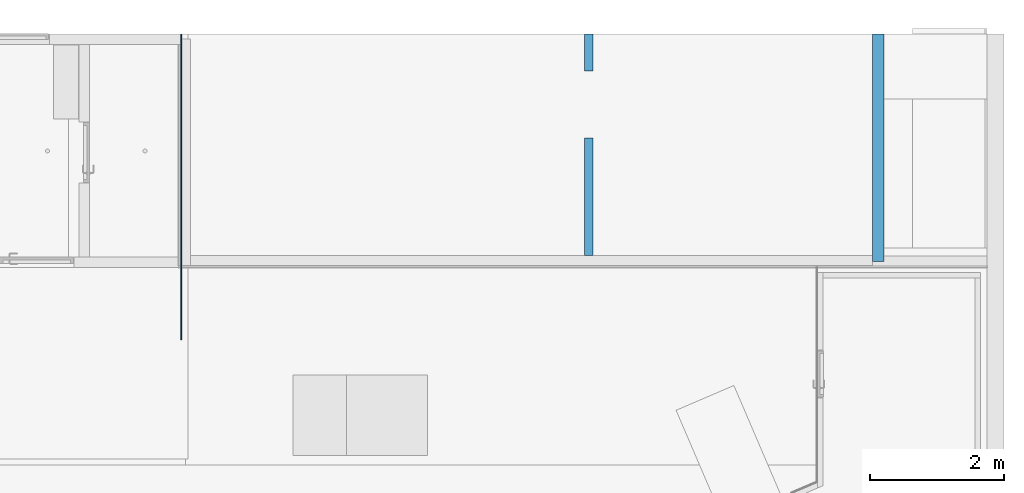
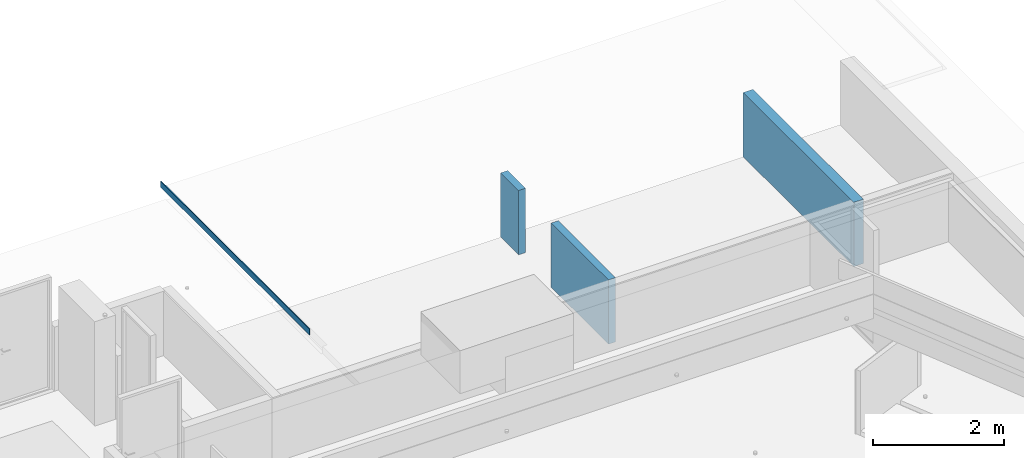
# One storey, part 9 of 16: 3 walls.
"""IFC2X3 building model written with IfcOpenShell, lengths in millimetres."""

import ifcopenshell
import ifcopenshell.guid

model = None  # the IFC model being written
_history = None  # IfcOwnerHistory: only IFC2X3 demands one
_inside = {}  # id of a spatial element -> (the spatial element, [elements in it])
_under = {}  # id of a project, library or spatial element -> (it, [spatial elements below it])
_declared = {}  # id of a project -> (the project, [libraries it declares])
_typed = {}  # id of a type object -> (the type object, [elements of that type])
_made_of = {}  # id of a material, layer set ... -> (it, [elements and type objects made of it])


def new_model(schema):
    """Start an empty IFC model of exactly this schema.

    Asked for "IFC4X3", IfcOpenShell would pick the latest addendum, in which some entities
    have other attributes; the version numbers below select the first issue.
    IFC2X3 requires an IfcOwnerHistory on every rooted entity: one is made here for all.
    """
    global model, _history
    if schema == "IFC4X3":
        model = ifcopenshell.file(schema_version=(4, 3, 0, 0))
    else:
        model = ifcopenshell.file(schema=schema)
    _inside.clear()
    _under.clear()
    _declared.clear()
    _typed.clear()
    _made_of.clear()
    _history = None
    if model.schema == "IFC2X3":
        org = make("IfcOrganization", Name="unknown")
        user = make(
            "IfcPersonAndOrganization",
            ThePerson=make("IfcPerson", FamilyName="unknown"),
            TheOrganization=org,
        )
        app = make(
            "IfcApplication",
            ApplicationDeveloper=org,
            Version="unknown",
            ApplicationFullName="unknown",
            ApplicationIdentifier="unknown",
        )
        _history = make(
            "IfcOwnerHistory",
            OwningUser=user,
            OwningApplication=app,
            ChangeAction="ADDED",
            CreationDate=0,
        )
    return model


def make(cls, **values):
    """One entity of the class cls with the attributes given. An attribute that is None is left unset."""
    return model.create_entity(
        cls, **{name: value for name, value in values.items() if value is not None}
    )


def entity(cls, *values):
    """Any entity or typed value of the class cls, its attributes in the order of the schema. None: left unset."""
    e = model.create_entity(cls)
    for i, value in enumerate(values):
        if value is not None:
            e[i] = value
    return e


def rooted(cls, **values):
    """An entity with a GlobalId (a new one), such as an element, a storey or a relation."""
    return make(cls, GlobalId=ifcopenshell.guid.new(), OwnerHistory=_history, **values)


def si_unit(unit_type, name, prefix=None):
    """IfcSIUnit, for example si_unit("LENGTHUNIT", "METRE", prefix="MILLI")."""
    return make("IfcSIUnit", UnitType=unit_type, Prefix=prefix, Name=name)


def converted_unit(unit_type, name, factor, base, dimensions=None, offset=None):
    """IfcConversionBasedUnit, such as the inch: factor (a typed value) times the base unit."""
    return make(
        "IfcConversionBasedUnit"
        if offset is None
        else "IfcConversionBasedUnitWithOffset",
        ConversionOffset=offset,
        Dimensions=None
        if dimensions is None
        else entity("IfcDimensionalExponents", *dimensions),
        UnitType=unit_type,
        Name=name,
        ConversionFactor=make(
            "IfcMeasureWithUnit", ValueComponent=factor, UnitComponent=base
        ),
    )


def derived_unit(unit_type, elements):
    """IfcDerivedUnit: a product of units, each with its exponent."""
    return make(
        "IfcDerivedUnit",
        Elements=[
            make("IfcDerivedUnitElement", Unit=unit, Exponent=power)
            for unit, power in elements
        ],
        UnitType=unit_type,
    )


def assignment(units):
    """IfcUnitAssignment: the units of a project."""
    return None if units is None else make("IfcUnitAssignment", Units=units)


def point(xyz):
    """IfcCartesianPoint."""
    return None if xyz is None else make("IfcCartesianPoint", Coordinates=xyz)


def direction(xyz):
    """IfcDirection."""
    return None if xyz is None else make("IfcDirection", DirectionRatios=xyz)


def frame(location, z_axis=None, x_axis=None):
    """IfcAxis2Placement3D, a coordinate frame: its origin and axes. An axis left out is left unset."""
    return make(
        "IfcAxis2Placement3D",
        Location=point(location),
        Axis=direction(z_axis),
        RefDirection=direction(x_axis),
    )


def origin_with_axes():
    """The frame at (0, 0, 0) with the z axis (0, 0, 1) and the x axis (1, 0, 0) written out."""
    return frame((0.0, 0.0, 0.0), z_axis=(0.0, 0.0, 1.0), x_axis=(1.0, 0.0, 0.0))


def place(relative_to, where):
    """IfcLocalPlacement: puts the frame where relative to a parent placement (None: the world)."""
    return make(
        "IfcLocalPlacement", PlacementRelTo=relative_to, RelativePlacement=where
    )


def context(
    kind, dimensions, precision=None, world=None, true_north=None, identifier=None
):
    """IfcGeometricRepresentationContext, for example the 3D "Model" context."""
    return make(
        "IfcGeometricRepresentationContext",
        ContextIdentifier=identifier,
        ContextType=kind,
        CoordinateSpaceDimension=dimensions,
        Precision=precision,
        WorldCoordinateSystem=world,
        TrueNorth=true_north,
    )


def subcontext(parent, identifier, kind, view, scale=None):
    """IfcGeometricRepresentationSubContext, for example "Body" below "Model"."""
    return make(
        "IfcGeometricRepresentationSubContext",
        ContextIdentifier=identifier,
        ContextType=kind,
        ParentContext=parent,
        TargetScale=scale,
        TargetView=view,
    )


def project(units=None, contexts=None):
    """IfcProject with its units and contexts."""
    return rooted(
        "IfcProject",
        Name="project",
        RepresentationContexts=contexts,
        UnitsInContext=assignment(units),
    )


def spatial(cls, under=None, at=None, **own):
    """A site, building, storey or space (cls), placed at a placement, below another one or the project."""
    s = rooted(cls, ObjectPlacement=at, **own)
    if under is not None:
        _under.setdefault(under.id(), (under, []))[1].append(s)
    return s


def faces_of(points, faces, orient=None, outer=None):
    """IfcFace entities. A face is a list of loops; a loop is a list of indices into points, from 0.

    orient and outer hold one flag for each loop. By default every Orientation is true, the
    first loop of a face is its IfcFaceOuterBound and the others are IfcFaceBound.
    """
    made = []
    for i, loops in enumerate(faces):
        bounds = []
        for j, loop in enumerate(loops):
            is_outer = j == 0 if outer is None else outer[i][j]
            bounds.append(
                make(
                    "IfcFaceOuterBound" if is_outer else "IfcFaceBound",
                    Bound=make("IfcPolyLoop", Polygon=[points[k] for k in loop]),
                    Orientation=True if orient is None else orient[i][j],
                )
            )
        made.append(make("IfcFace", Bounds=bounds))
    return made


def faceted_brep(points, faces, orient=None, outer=None, voids=None):
    """IfcFacetedBrep: a solid bounded by flat faces; with voids (closed shells), ...WithVoids."""
    shared = [point(p) for p in points]
    hull = make("IfcClosedShell", CfsFaces=faces_of(shared, faces, orient, outer))
    if voids is None:
        return make("IfcFacetedBrep", Outer=hull)
    return make(
        "IfcFacetedBrepWithVoids",
        Outer=hull,
        Voids=[
            make(cls, CfsFaces=faces_of(shared, fs, o, b)) for cls, fs, o, b in voids
        ],
    )


def shape(context_of_items, identifier, shape_type, items):
    """IfcShapeRepresentation: the items that make up one representation, for example the "Body"."""
    return make(
        "IfcShapeRepresentation",
        ContextOfItems=context_of_items,
        RepresentationIdentifier=identifier,
        RepresentationType=shape_type,
        Items=items,
    )


def material(Name=None, Category=None):
    """IfcMaterial."""
    return make("IfcMaterial", Name=Name, Category=Category)


def layer(
    of_material, thickness, ventilated=None, Name=None, Category=None, Priority=None
):
    """IfcMaterialLayer: one layer of a wall or slab, of a material (None: an air gap)."""
    return make(
        "IfcMaterialLayer",
        Material=of_material,
        LayerThickness=thickness,
        IsVentilated=ventilated,
        Name=Name,
        Category=Category,
        Priority=Priority,
    )


def layer_set(layers, Name=None):
    """IfcMaterialLayerSet."""
    return make("IfcMaterialLayerSet", MaterialLayers=layers, LayerSetName=Name)


def made_of(thing, what):
    """Note that an element or type object is made of a material, layer set ...; save() writes the relation."""
    if what is not None:
        _made_of.setdefault(what.id(), (what, []))[1].append(thing)
    return thing


def type_object(cls, material=None, **own):
    """A type object (cls), such as IfcWallType, which elements share."""
    return made_of(rooted(cls, **own), material)


def element(
    cls,
    number,
    at=None,
    inside=None,
    cuts=None,
    type_object=None,
    material=None,
    context=None,
    identifier="Body",
    shape_type=None,
    held_by="IfcProductDefinitionShape",
    body=None,
    shapes=None,
    **own,
):
    """One element of the class cls, such as IfcWall. Its Tag is "e" and its number.

    at: its placement. inside: the storey or other place that contains it. cuts: it is an
    opening in that element (IfcRelVoidsElement). A single representation is given by context,
    identifier, shape_type and body (its items); several are given by shapes. held_by: the class
    of the entity that holds the representations. save() writes the other relations.
    """
    e = rooted(cls, Tag="e%d" % number, ObjectPlacement=at, **own)
    if body is not None:
        shapes = [shape(context, identifier, shape_type, body)]
    if shapes is not None:
        e.Representation = make(held_by, Representations=shapes)
    if inside is not None:
        _inside.setdefault(inside.id(), (inside, []))[1].append(e)
    if cuts is not None:
        rooted(
            "IfcRelVoidsElement", RelatingBuildingElement=cuts, RelatedOpeningElement=e
        )
    if type_object is not None:
        _typed.setdefault(type_object.id(), (type_object, []))[1].append(e)
    return made_of(e, material)


def aggregate(whole, parts):
    """IfcRelAggregates: a whole, such as a stair, and the parts it consists of."""
    return rooted("IfcRelAggregates", RelatingObject=whole, RelatedObjects=parts)


def save(model, path):
    """Write the relations noted so far, then the file.

    IfcRelAggregates (storeys below a building ...), IfcRelContainedInSpatialStructure (elements
    in a storey), IfcRelDefinesByType, IfcRelAssociatesMaterial and IfcRelDeclares: one each for
    every whole, place, type object, material and project.
    """
    for whole, parts in _under.values():
        aggregate(whole, parts)
    for where, things in _inside.values():
        rooted(
            "IfcRelContainedInSpatialStructure",
            RelatedElements=things,
            RelatingStructure=where,
        )
    for kind, things in _typed.values():
        rooted("IfcRelDefinesByType", RelatedObjects=things, RelatingType=kind)
    for what, things in _made_of.values():
        rooted("IfcRelAssociatesMaterial", RelatedObjects=things, RelatingMaterial=what)
    for by, libraries in _declared.values():
        rooted("IfcRelDeclares", RelatingContext=by, RelatedDefinitions=libraries)
    model.write(path)


model = new_model("IFC2X3")

# Units and contexts
model_context = context("Model", 3, precision=0.01, world=frame((0.0, 4.29681676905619e-09, 0.0)), true_north=direction((4.01073788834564e-13, 1.0)))
plan_context = context("Plan", 3, precision=0.01, world=frame((0.0, 4.29681676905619e-09, 0.0)), true_north=direction((4.01073788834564e-13, 1.0)))
body_context = subcontext(model_context, "Body", "Model", "MODEL_VIEW")
ifc_project = project(units=[converted_unit("PLANEANGLEUNIT", "DEGREE", entity("IfcPositiveLengthMeasure", 0.0174532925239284), si_unit("PLANEANGLEUNIT", "RADIAN"), dimensions=[0, 0, 0, 0, 0, 0, 0]), si_unit("AREAUNIT", "SQUARE_METRE"), si_unit("LENGTHUNIT", "METRE", prefix="MILLI"), si_unit("MASSUNIT", "GRAM", prefix="KILO"), si_unit("POWERUNIT", "WATT"), si_unit("PRESSUREUNIT", "PASCAL"), si_unit("FORCEUNIT", "NEWTON", prefix="KILO"), si_unit("ELECTRICCURRENTUNIT", "AMPERE"), si_unit("THERMODYNAMICTEMPERATUREUNIT", "DEGREE_CELSIUS"), si_unit("TIMEUNIT", "SECOND"), si_unit("VOLUMEUNIT", "CUBIC_METRE"), derived_unit("LINEARVELOCITYUNIT", [(si_unit("LENGTHUNIT", "METRE"), 1), (si_unit("TIMEUNIT", "SECOND"), -1)]), derived_unit("VOLUMETRICFLOWRATEUNIT", [(si_unit("VOLUMEUNIT", "CUBIC_METRE"), 1), (si_unit("TIMEUNIT", "SECOND"), -1)]), derived_unit("THERMALTRANSMITTANCEUNIT", [(si_unit("POWERUNIT", "WATT"), 1), (si_unit("THERMODYNAMICTEMPERATUREUNIT", "KELVIN"), -1), (si_unit("AREAUNIT", "SQUARE_METRE"), -1)])], contexts=[model_context, plan_context])

# Site, building, storey
site_placement = place(None, origin_with_axes())
site = spatial("IfcSite", under=ifc_project, at=site_placement, Name="ENGM", CompositionType="ELEMENT")
building_placement = place(site_placement, origin_with_axes())
building = spatial("IfcBuilding", under=site, at=building_placement, Name="TS", CompositionType="ELEMENT")
storey_placement = place(building_placement, frame((0.0, 0.0, 204000.0), z_axis=(0.0, 0.0, 1.0), x_axis=(1.0, 0.0, 0.0)))
storey = spatial("IfcBuildingStorey", under=building, at=storey_placement, Name="Nivå D", CompositionType="ELEMENT", Elevation=204000.0)

# Walls
ifc_material_1 = material(Name="T2_Gips Fibergips")
ifc_layer_1 = layer(ifc_material_1, 12.5)
ifc_material_2 = material(Name="Plate - Gips")
ifc_layer_2 = layer(ifc_material_2, 12.5)
ifc_material_3 = material(Name="_NSW Stålstender, uisolert")
ifc_layer_3 = layer(ifc_material_3, 120.0)
ifc_layer_4 = layer(ifc_material_2, 12.5)
ifc_layer_5 = layer(ifc_material_2, 12.5)
ifc_layer_set_1 = layer_set([ifc_layer_1, ifc_layer_2, ifc_layer_3, ifc_layer_4, ifc_layer_5], Name="Basic Wall:A241 - RVS-121")
wall_type_1 = type_object("IfcWallType", Name="Basic Wall:A241 - RVS-121", PredefinedType="STANDARD", material=ifc_layer_set_1)
wall_1_placement = place(storey_placement, frame((530302.51249987, 422074.999999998, 0.0), z_axis=(0.0, 0.0, 1.0), x_axis=(0.0, -1.0, 0.0)))
element("IfcWall", 1, at=wall_1_placement, inside=storey, type_object=wall_type_1, Name="Basic Wall:A241 - RVS-121", ObjectType="Basic Wall:A241 - RVS-121", context=body_context, shape_type="Brep", body=[
    faceted_brep([(4584.9999998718, -84.999999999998, 0.0), (4584.9999998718, -84.999999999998, 1200.0), (4584.9999998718, 84.999999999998, 1200.0), (4584.9999998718, 84.999999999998, 0.0), (1204.80854658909, 84.999999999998, 1200.0), (1204.80854658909, 84.999999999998, 0.0), (1204.80854658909, -84.999999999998, 0.0), (1204.80854658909, -84.999999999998, 1200.0)], [[[0, 1, 2, 3]], [[4, 5, 3, 2]], [[6, 7, 1, 0]], [[5, 6, 0, 3]], [[7, 4, 2, 1]], [[7, 6, 5, 4]]], orient=[[False], [False], [False], [False], [False], [False]]),
])
ifc_material_4 = material(Name="T2_Gips Protect F")
ifc_layer_6 = layer(ifc_material_4, 15.0)
ifc_layer_set_2 = layer_set([ifc_layer_6], Name="Basic Wall:A241 - F (p-0)")
wall_type_2 = type_object("IfcWallType", Name="Basic Wall:A241 - F (p-0)", PredefinedType="STANDARD", material=ifc_layer_set_2)
wall_2_placement = place(storey_placement, frame((519942.500000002, 422224.999999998, 3033.34305701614), z_axis=(0.0, 0.0, 1.0), x_axis=(0.0, -1.0, 0.0)))
element("IfcWall", 2, at=wall_2_placement, inside=storey, type_object=wall_type_2, Name="Basic Wall:A241 - F (p-0)", ObjectType="Basic Wall:A241 - F (p-0)", context=body_context, shape_type="Brep", body=[
    faceted_brep([(5902.52851562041, -7.49999999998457, 0.0), (5902.52851562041, -7.49999999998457, 111.713771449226), (5902.52851562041, 7.49999999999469, 111.713771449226), (5902.52851562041, 7.49999999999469, 0.0), (1354.80854658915, 7.49999999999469, 111.713771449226), (1354.80854658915, 7.49999999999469, 0.0), (1354.80854658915, -7.49999999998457, 0.0), (1354.80854658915, -7.49999999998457, 111.713771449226)], [[[0, 1, 2, 3]], [[4, 5, 3, 2]], [[6, 7, 1, 0]], [[5, 6, 0, 3]], [[7, 4, 2, 1]], [[7, 6, 5, 4]]], orient=[[False], [False], [False], [False], [False], [False]]),
])
ifc_layer_7 = layer(ifc_material_2, 12.5)
ifc_layer_8 = layer(ifc_material_2, 12.5)
ifc_layer_9 = layer(ifc_material_3, 75.0)
ifc_layer_10 = layer(ifc_material_2, 12.5)
ifc_layer_11 = layer(ifc_material_2, 12.5)
ifc_layer_set_3 = layer_set([ifc_layer_7, ifc_layer_8, ifc_layer_9, ifc_layer_10, ifc_layer_11], Name="Basic Wall:A241 - SVS-76")
wall_type_3 = type_object("IfcWallType", Name="Basic Wall:A241 - SVS-76", PredefinedType="STANDARD", material=ifc_layer_set_3)
wall_3_placement = place(storey_placement, frame((525999.999999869, 417575.000000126, 0.0), z_axis=(0.0, 0.0, 1.0), x_axis=(0.0, 1.0, 0.0)))
element("IfcWall", 3, at=wall_3_placement, inside=storey, type_object=wall_type_3, Name="Basic Wall:A241 - SVS-76", ObjectType="Basic Wall:A241 - SVS-76", context=body_context, shape_type="Brep", body=[
    faceted_brep([(0.0, 62.5000000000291, 0.0), (0.0, 62.5000000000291, 1200.0), (0.0, -62.4999999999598, 1200.0), (0.0, -62.4999999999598, 0.0), (3295.19145328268, -62.5000000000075, 1200.0), (3295.19145328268, -62.5000000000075, -2.6611484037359e-12), (2749.99999987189, -62.5000000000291, -3.86535248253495e-12), (2749.99999987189, -62.5000000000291, 1200.0), (1749.99999987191, -62.5000000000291, 1200.0), (1749.99999987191, -62.5000000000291, -3.86535248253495e-12), (1749.99999987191, 62.5000000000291, -3.86535248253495e-12), (1749.99999987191, 62.5000000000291, 1200.0), (3295.19145328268, 62.5000000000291, -2.6611484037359e-12), (3295.19145328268, 62.5000000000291, 1200.0), (2749.99999987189, 62.5000000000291, 1200.0), (2749.99999987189, 62.5000000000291, -3.86535248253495e-12)], [[[0, 1, 2, 3]], [[4, 5, 6, 7]], [[8, 9, 3, 2]], [[10, 11, 1, 0]], [[12, 13, 14, 15]], [[5, 12, 15, 6]], [[9, 10, 0, 3]], [[13, 4, 7, 14]], [[11, 8, 2, 1]], [[6, 15, 14, 7]], [[10, 9, 8, 11]], [[13, 12, 5, 4]]], orient=[[False], [False], [False], [False], [False], [False], [False], [False], [False], [False], [False], [False]]),
])

save(model, "model.ifc")
